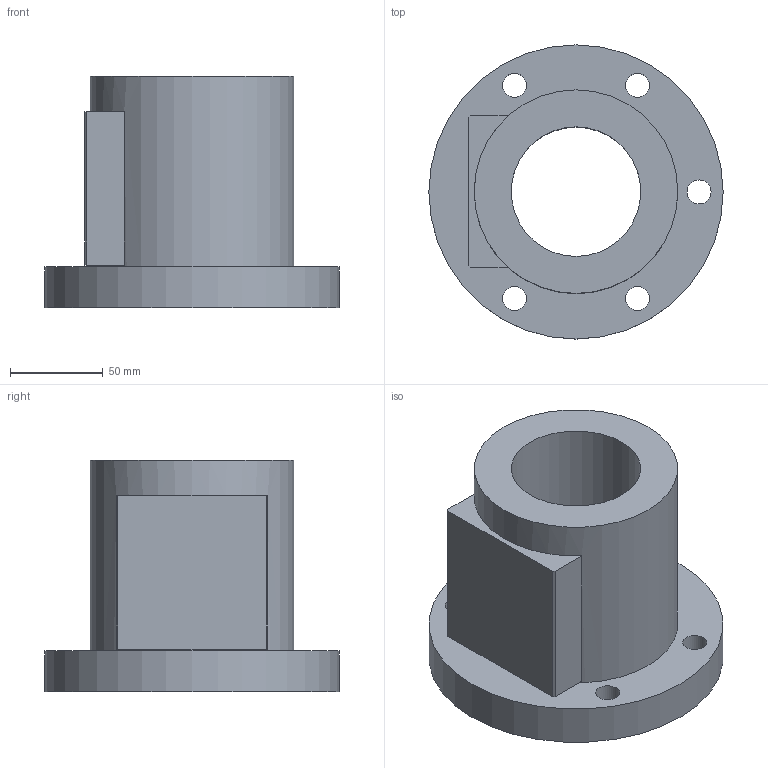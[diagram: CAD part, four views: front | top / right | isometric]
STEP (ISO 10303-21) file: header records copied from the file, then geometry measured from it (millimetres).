
FILE_DESCRIPTION(/* description */ (''),/* implementation_level */ '2;1');
FILE_NAME(/* name */ '70-12B2',/* time_stamp */ '2006-07-31T13:06:58+08:00',/* author */ (''),/* organization */ (''),/* preprocessor_version */ 'ST-DEVELOPER v9',/* originating_system */ 'UGS - NX 4.0',/* authorisation */ '');
FILE_SCHEMA (('CONFIG_CONTROL_DESIGN'));
Length unit declared in the file: millimetre
Products named in the file (1): 70-12B2
Bounding box: 159 x 159 x 125 mm (x, y, z)
Volume: 966916.9 mm3; surface area: 114666.7 mm2
Topology: 1 solids, 1 shells, 28 faces, 61 edges, 42 vertices
Faces by surface type: plane 15, cylinder 13
Full cylindrical faces by diameter (mm): 13 x5, 20 x5, 70 x1, 110 x1, 159 x1
Entity records: 794 total; most frequent: DIRECTION 130, CARTESIAN_POINT 111, ORIENTED_EDGE 88, EDGE_LOOP 60, AXIS2_PLACEMENT_3D 57, FACE_BOUND 45, EDGE_CURVE 44, VERTEX_POINT 38
